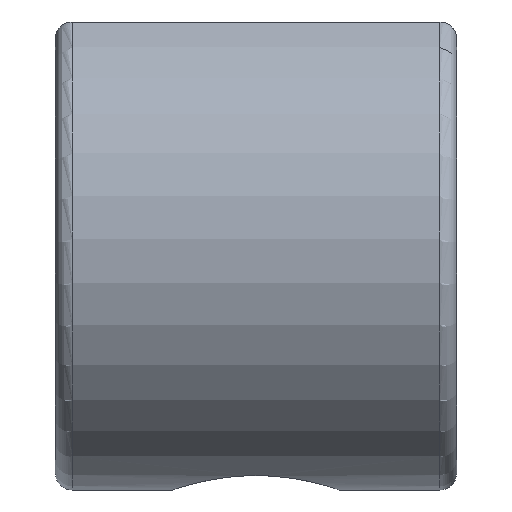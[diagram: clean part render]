
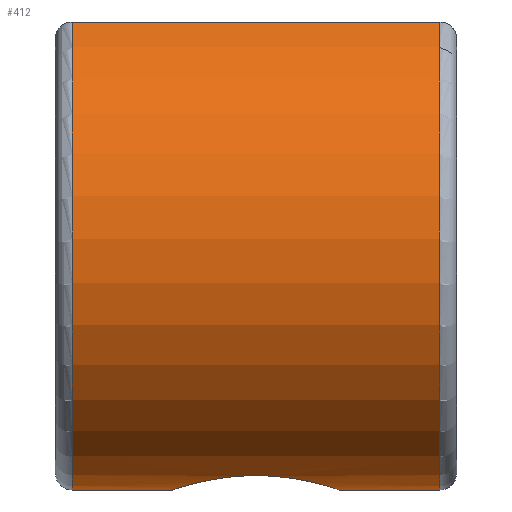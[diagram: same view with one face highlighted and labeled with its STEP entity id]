
A CAD part, left-side view. The second image highlights one B-rep face of the part: STEP entity #412.
In plain terms, the highlighted cylindrical face has radius 7.5 mm (diameter 15 mm), a partial arc.
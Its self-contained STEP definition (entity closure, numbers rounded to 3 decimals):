
#3 = CARTESIAN_POINT ( 'NONE',  ( -0.164, 2.5, -7.5 ) ) ;
#7 = EDGE_CURVE ( 'NONE', #327, #463, #22, .T. ) ;
#10 = AXIS2_PLACEMENT_3D ( 'NONE', #92, #297, #447 ) ;
#16 = FACE_OUTER_BOUND ( 'NONE', #128, .T. ) ;
#18 = VERTEX_POINT ( 'NONE', #57 ) ;
#22 = LINE ( 'NONE', #168, #217 ) ;
#23 = CARTESIAN_POINT ( 'NONE',  ( -1.997, -1.538, -7.233 ) ) ;
#30 = CARTESIAN_POINT ( 'NONE',  ( -0.81, 2.371, -7.458 ) ) ;
#37 = CARTESIAN_POINT ( 'NONE',  ( -0.653, 2.419, -7.473 ) ) ;
#52 = CARTESIAN_POINT ( 'NONE',  ( -2.484, -0.328, -7.077 ) ) ;
#55 = CARTESIAN_POINT ( 'NONE',  ( -1.113, -2.245, -7.419 ) ) ;
#57 = CARTESIAN_POINT ( 'NONE',  ( -3.742, -5.5, 6.5 ) ) ;
#64 = LINE ( 'NONE', #238, #365 ) ;
#66 = DIRECTION ( 'NONE',  ( 0., 1., 0. ) ) ;
#70 = CARTESIAN_POINT ( 'NONE',  ( -2.419, 0.652, -7.099 ) ) ;
#80 = AXIS2_PLACEMENT_3D ( 'NONE', #245, #66, #210 ) ;
#81 = VERTEX_POINT ( 'NONE', #241 ) ;
#92 = CARTESIAN_POINT ( 'NONE',  ( 0., 6., 0. ) ) ;
#95 = EDGE_CURVE ( 'NONE', #216, #81, #384, .T. ) ;
#97 = CARTESIAN_POINT ( 'NONE',  ( -0.651, -2.419, -7.473 ) ) ;
#102 = CARTESIAN_POINT ( 'NONE',  ( -1.258, 2.167, -7.395 ) ) ;
#104 = DIRECTION ( 'NONE',  ( 0., -1., 0. ) ) ;
#122 = CARTESIAN_POINT ( 'NONE',  ( -1.256, -2.168, -7.395 ) ) ;
#125 = CARTESIAN_POINT ( 'NONE',  ( -2.5, 0., -7.071 ) ) ;
#128 = EDGE_LOOP ( 'NONE', ( #391, #401, #258, #239, #385, #134, #408 ) ) ;
#134 = ORIENTED_EDGE ( 'NONE', *, *, #139, .T. ) ;
#136 = VECTOR ( 'NONE', #351, 1000. ) ;
#139 = EDGE_CURVE ( 'NONE', #463, #18, #279, .T. ) ;
#143 = B_SPLINE_CURVE_WITH_KNOTS ( 'NONE', 3,
 ( #324, #3, #287, #37, #30, #315, #102, #249, #148, #393, #173, #312, #70, #213, #352, #460 ),
 .UNSPECIFIED., .F., .F.,
 ( 4, 2, 2, 2, 2, 2, 2, 4 ),
 ( 0.008, 0.008, 0.009, 0.009, 0.01, 0.011, 0.011, 0.012 ),
 .UNSPECIFIED. ) ;
#146 = EDGE_CURVE ( 'NONE', #81, #301, #317, .T. ) ;
#148 = CARTESIAN_POINT ( 'NONE',  ( -1.653, 1.883, -7.317 ) ) ;
#166 = EDGE_CURVE ( 'NONE', #301, #414, #143, .T. ) ;
#167 = CARTESIAN_POINT ( 'NONE',  ( 0., -2.5, -7.5 ) ) ;
#168 = CARTESIAN_POINT ( 'NONE',  ( 0., 6., -7.5 ) ) ;
#169 = CARTESIAN_POINT ( 'NONE',  ( 0., 2.5, -7.5 ) ) ;
#173 = CARTESIAN_POINT ( 'NONE',  ( -2.182, 1.264, -7.177 ) ) ;
#182 = AXIS2_PLACEMENT_3D ( 'NONE', #281, #104, #280 ) ;
#197 = CARTESIAN_POINT ( 'NONE',  ( -0.811, -2.371, -7.458 ) ) ;
#210 = DIRECTION ( 'NONE',  ( 0., 0., 1. ) ) ;
#213 = CARTESIAN_POINT ( 'NONE',  ( -2.483, 0.331, -7.077 ) ) ;
#216 = VERTEX_POINT ( 'NONE', #404 ) ;
#217 = VECTOR ( 'NONE', #305, 1000. ) ;
#236 = CARTESIAN_POINT ( 'NONE',  ( -1.526, -1.987, -7.344 ) ) ;
#238 = CARTESIAN_POINT ( 'NONE',  ( -3.742, 6., 6.5 ) ) ;
#239 = ORIENTED_EDGE ( 'NONE', *, *, #322, .T. ) ;
#241 = CARTESIAN_POINT ( 'NONE',  ( 0., 5.5, -7.5 ) ) ;
#242 = CARTESIAN_POINT ( 'NONE',  ( 0., -5.5, -7.5 ) ) ;
#245 = CARTESIAN_POINT ( 'NONE',  ( 0., -5.5, 0. ) ) ;
#249 = CARTESIAN_POINT ( 'NONE',  ( -1.527, 1.986, -7.344 ) ) ;
#258 = ORIENTED_EDGE ( 'NONE', *, *, #166, .T. ) ;
#267 = CARTESIAN_POINT ( 'NONE',  ( -2.371, -0.81, -7.116 ) ) ;
#268 = CARTESIAN_POINT ( 'NONE',  ( -2.5, 0., -7.071 ) ) ;
#271 = CARTESIAN_POINT ( 'NONE',  ( 0., -2.5, -7.5 ) ) ;
#275 = CARTESIAN_POINT ( 'NONE',  ( -2.183, -1.262, -7.177 ) ) ;
#279 = CIRCLE ( 'NONE', #80, 7.5 ) ;
#280 = DIRECTION ( 'NONE',  ( 0., 0., 1. ) ) ;
#281 = CARTESIAN_POINT ( 'NONE',  ( 0., 5.5, 0. ) ) ;
#287 = CARTESIAN_POINT ( 'NONE',  ( -0.329, 2.484, -7.495 ) ) ;
#297 = DIRECTION ( 'NONE',  ( 0., -1., 0. ) ) ;
#301 = VERTEX_POINT ( 'NONE', #169 ) ;
#305 = DIRECTION ( 'NONE',  ( 0., -1., 0. ) ) ;
#307 = CARTESIAN_POINT ( 'NONE',  ( -1.654, -1.882, -7.316 ) ) ;
#312 = CARTESIAN_POINT ( 'NONE',  ( -2.371, 0.808, -7.116 ) ) ;
#315 = CARTESIAN_POINT ( 'NONE',  ( -1.111, 2.245, -7.419 ) ) ;
#317 = LINE ( 'NONE', #347, #136 ) ;
#322 = EDGE_CURVE ( 'NONE', #414, #327, #377, .T. ) ;
#324 = CARTESIAN_POINT ( 'NONE',  ( 0., 2.5, -7.5 ) ) ;
#327 = VERTEX_POINT ( 'NONE', #271 ) ;
#336 = EDGE_CURVE ( 'NONE', #216, #18, #64, .T. ) ;
#338 = CARTESIAN_POINT ( 'NONE',  ( -0.33, -2.484, -7.494 ) ) ;
#347 = CARTESIAN_POINT ( 'NONE',  ( 0., 6., -7.5 ) ) ;
#351 = DIRECTION ( 'NONE',  ( 0., -1., 0. ) ) ;
#352 = CARTESIAN_POINT ( 'NONE',  ( -2.5, 0.165, -7.071 ) ) ;
#365 = VECTOR ( 'NONE', #370, 1000. ) ;
#370 = DIRECTION ( 'NONE',  ( 0., -1., 0. ) ) ;
#377 = B_SPLINE_CURVE_WITH_KNOTS ( 'NONE', 3,
 ( #125, #417, #52, #383, #267, #275, #23, #307, #236, #122, #55, #197, #97, #338, #380, #167 ),
 .UNSPECIFIED., .F., .F.,
 ( 4, 2, 2, 2, 2, 2, 2, 4 ),
 ( 0.012, 0.012, 0.013, 0.014, 0.014, 0.015, 0.015, 0.016 ),
 .UNSPECIFIED. ) ;
#380 = CARTESIAN_POINT ( 'NONE',  ( -0.166, -2.5, -7.5 ) ) ;
#383 = CARTESIAN_POINT ( 'NONE',  ( -2.419, -0.651, -7.099 ) ) ;
#384 = CIRCLE ( 'NONE', #182, 7.5 ) ;
#385 = ORIENTED_EDGE ( 'NONE', *, *, #7, .T. ) ;
#391 = ORIENTED_EDGE ( 'NONE', *, *, #95, .T. ) ;
#393 = CARTESIAN_POINT ( 'NONE',  ( -1.999, 1.537, -7.233 ) ) ;
#401 = ORIENTED_EDGE ( 'NONE', *, *, #146, .T. ) ;
#404 = CARTESIAN_POINT ( 'NONE',  ( -3.742, 5.5, 6.5 ) ) ;
#408 = ORIENTED_EDGE ( 'NONE', *, *, #336, .F. ) ;
#412 = ADVANCED_FACE ( 'NONE', ( #16 ), #413, .T. ) ;
#413 = CYLINDRICAL_SURFACE ( 'NONE', #10, 7.5 ) ;
#414 = VERTEX_POINT ( 'NONE', #268 ) ;
#417 = CARTESIAN_POINT ( 'NONE',  ( -2.5, -0.165, -7.071 ) ) ;
#447 = DIRECTION ( 'NONE',  ( 0., 0., -1. ) ) ;
#460 = CARTESIAN_POINT ( 'NONE',  ( -2.5, 0., -7.071 ) ) ;
#463 = VERTEX_POINT ( 'NONE', #242 ) ;
